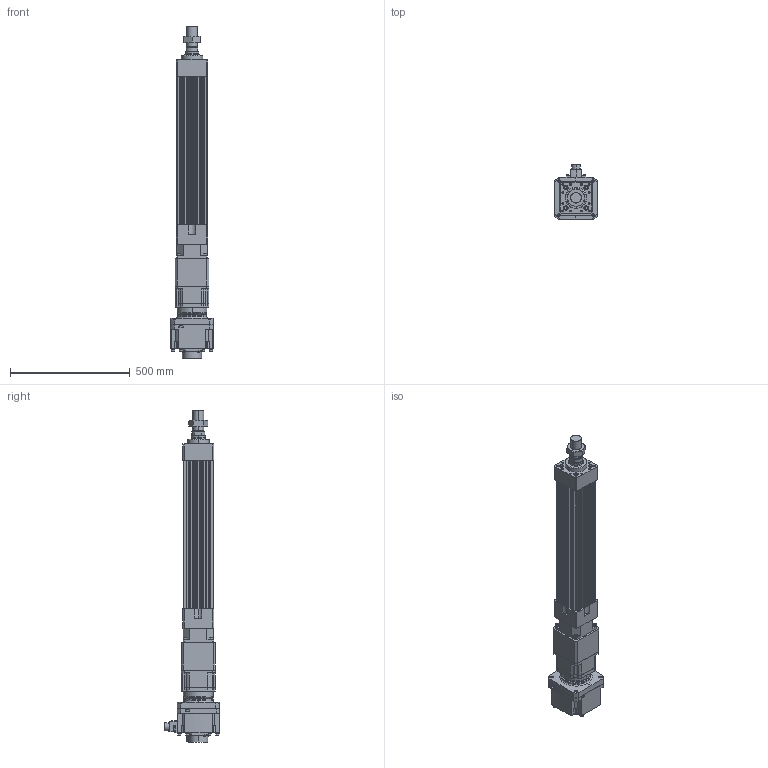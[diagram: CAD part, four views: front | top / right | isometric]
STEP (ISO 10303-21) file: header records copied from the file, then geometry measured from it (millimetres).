
FILE_DESCRIPTION (( 'STEP AP203' ), '1' );
FILE_NAME ('HES130FS(HS)-S400-W020G00-M.STEP', '2023-01-30T11:47:43', ( 'tms' ), ( '' ), 'SwSTEP 2.0', 'SolidWorks 2013', '' );
FILE_SCHEMA (( 'CONFIG_CONTROL_DESIGN' ));
Length unit declared in the file: millimetre
Products named in the file (9): HES130FS(HS)-S400-W020G00-M; HES130 ROD M ST400; AB1421; P1301500001; HES130-S400-G142; M45X1.5P; P0403500801; HG-SR202; AB142-003[HG-SR352]
Assembly tree (8 placements, depth 3):
  HES130FS(HS)-S400-W020G00-M
    HES130-S400-G142
    HES130 ROD M ST400
    M45X1.5P
    AB142-003[HG-SR352]
      AB1421
      P1301500001
      P0403500801
    HG-SR202
Bounding box: 176 x 228.85 x 1387.5 mm (x, y, z)
Volume: 12139589.4 mm3; surface area: 1559579.8 mm2
Topology: 4 solids, 22 shells, 1527 faces, 3928 edges, 2530 vertices
Faces by surface type: cylinder 683, plane 580, cone 182, bspline 76, torus 6
Entity records: 55214 total; most frequent: CARTESIAN_POINT 16756, DIRECTION 8052, ORIENTED_EDGE 7718, EDGE_CURVE 3881, AXIS2_PLACEMENT_3D 3043, VERTEX_POINT 2530, LINE 1966, VECTOR 1966
